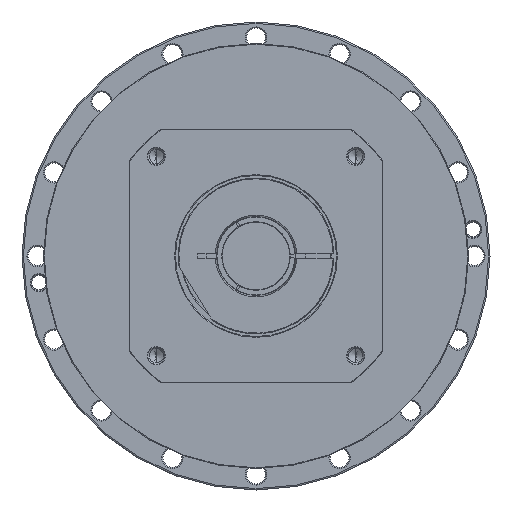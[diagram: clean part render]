
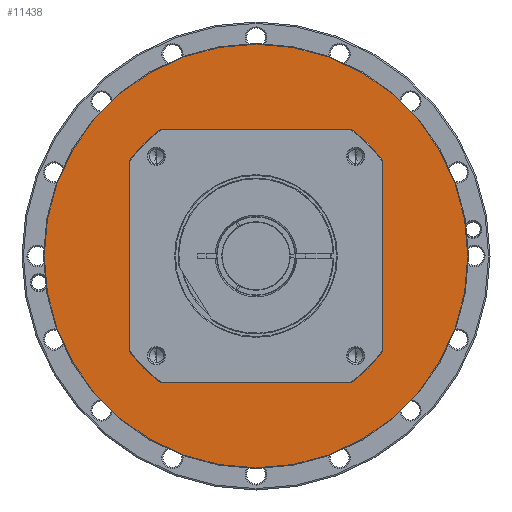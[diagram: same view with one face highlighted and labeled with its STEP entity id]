
A CAD part, left-side view. The second image highlights one B-rep face of the part: STEP entity #11438.
In plain terms, the highlighted planar face has unit normal (-1, 0, 0) as drawn and (1, 0, 0) by its records, which use the part's own axes.
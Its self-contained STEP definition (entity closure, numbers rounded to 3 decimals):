
#10469=CARTESIAN_POINT('',(-5.,0.,0.));
#10470=DIRECTION('',(-1.,0.,0.));
#10471=DIRECTION('',(0.,-1.,0.));
#10472=AXIS2_PLACEMENT_3D('',#10469,#10470,#10471);
#10474=CARTESIAN_POINT('',(-5.,0.,0.));
#10475=DIRECTION('',(-1.,0.,0.));
#10476=DIRECTION('',(0.,1.,0.));
#10477=AXIS2_PLACEMENT_3D('',#10474,#10475,#10476);
#10479=CARTESIAN_POINT('',(-5.,0.,0.));
#10480=DIRECTION('',(-1.,0.,0.));
#10481=DIRECTION('',(0.,-1.,0.));
#10482=AXIS2_PLACEMENT_3D('',#10479,#10480,#10481);
#10484=CARTESIAN_POINT('',(-5.,0.,0.));
#10485=DIRECTION('',(-1.,0.,0.));
#10486=DIRECTION('',(0.,1.,0.));
#10487=AXIS2_PLACEMENT_3D('',#10484,#10485,#10486);
#10731=CARTESIAN_POINT('',(-5.,-150.25,0.));
#10732=CARTESIAN_POINT('',(-5.,150.25,0.));
#10733=VERTEX_POINT('',#10731);
#10734=VERTEX_POINT('',#10732);
#10789=CARTESIAN_POINT('',(-5.,-88.,0.));
#10790=CARTESIAN_POINT('',(-5.,88.,0.));
#10791=VERTEX_POINT('',#10789);
#10792=VERTEX_POINT('',#10790);
#11423=CARTESIAN_POINT('',(-5.,0.,0.));
#11424=DIRECTION('',(1.,0.,0.));
#11425=DIRECTION('',(0.,-1.,0.));
#11426=AXIS2_PLACEMENT_3D('',#11423,#11424,#11425);
#11427=PLANE('',#11426);
#11428=ORIENTED_EDGE('',*,*,#11379,.T.);
#11429=ORIENTED_EDGE('',*,*,#11364,.T.);
#11430=EDGE_LOOP('',(#11428,#11429));
#11431=FACE_OUTER_BOUND('',#11430,.F.);
#11433=ORIENTED_EDGE('',*,*,#11432,.F.);
#11435=ORIENTED_EDGE('',*,*,#11434,.F.);
#11436=EDGE_LOOP('',(#11433,#11435));
#11437=FACE_BOUND('',#11436,.F.);
#11438=ADVANCED_FACE('',(#11431,#11437),#11427,.T.);
#10473=CIRCLE('',#10472,88.);
#10478=CIRCLE('',#10477,88.);
#10483=CIRCLE('',#10482,150.25);
#10488=CIRCLE('',#10487,150.25);
#11364=EDGE_CURVE('',#10734,#10733,#10488,.T.);
#11379=EDGE_CURVE('',#10733,#10734,#10483,.T.);
#11432=EDGE_CURVE('',#10791,#10792,#10473,.T.);
#11434=EDGE_CURVE('',#10792,#10791,#10478,.T.);
